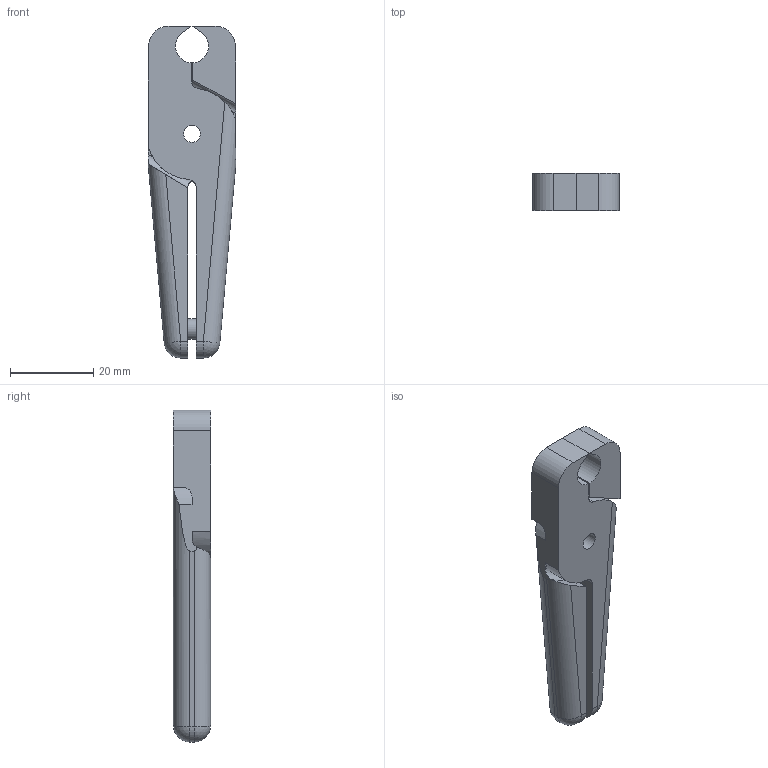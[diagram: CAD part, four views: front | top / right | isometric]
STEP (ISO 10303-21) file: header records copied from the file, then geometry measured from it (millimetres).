
FILE_DESCRIPTION(/* description */ (''),/* implementation_level */ '2;1');
FILE_NAME(/* name */ 'W:\Technik\Konstruktion\CAD-Daten\DJa\Vessel Schneidzangeneinsatz\N7AE\N7AE closed.stp',/* time_stamp */ '2016-09-14T14:12:02+02:00',/* author */ ('DJansen'),/* organization */ (''),/* preprocessor_version */ 'ST-DEVELOPER v16.5',/* originating_system */ 'Autodesk Inventor 2017',/* authorisation */ '');
FILE_SCHEMA (('AUTOMOTIVE_DESIGN { 1 0 10303 214 3 1 1 }'));
Length unit declared in the file: millimetre
Products named in the file (1): N7AE Baugruppe
Bounding box: 21 x 9 x 80 mm (x, y, z)
Volume: 10886.1 mm3; surface area: 5524.1 mm2
Topology: 1 solids, 1 shells, 64 faces, 168 edges, 107 vertices
Faces by surface type: cylinder 30, plane 30, sphere 4
Full cylindrical faces by diameter (mm): 4.1 x1, 5 x1, 5.5 x2
Entity records: 2080 total; most frequent: CARTESIAN_POINT 469, DIRECTION 335, ORIENTED_EDGE 328, EDGE_CURVE 163, AXIS2_PLACEMENT_3D 123, VERTEX_POINT 106, LINE 89, VECTOR 89
